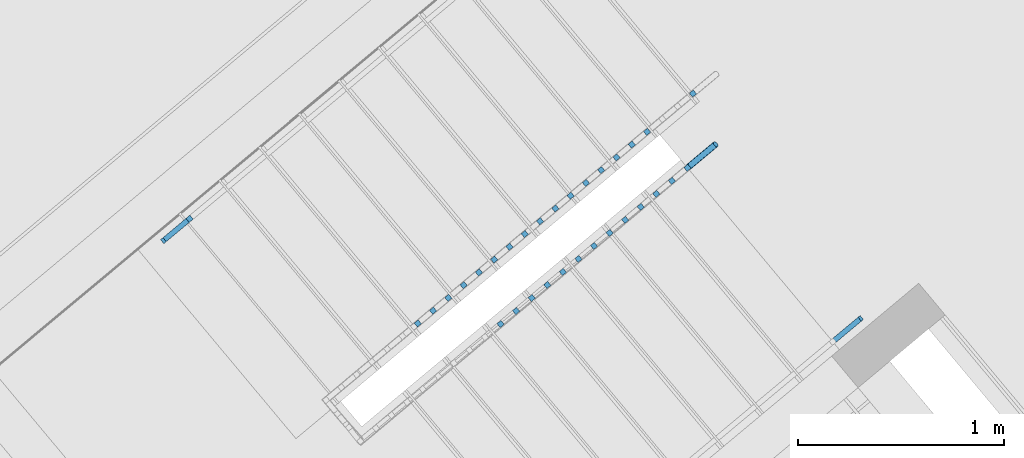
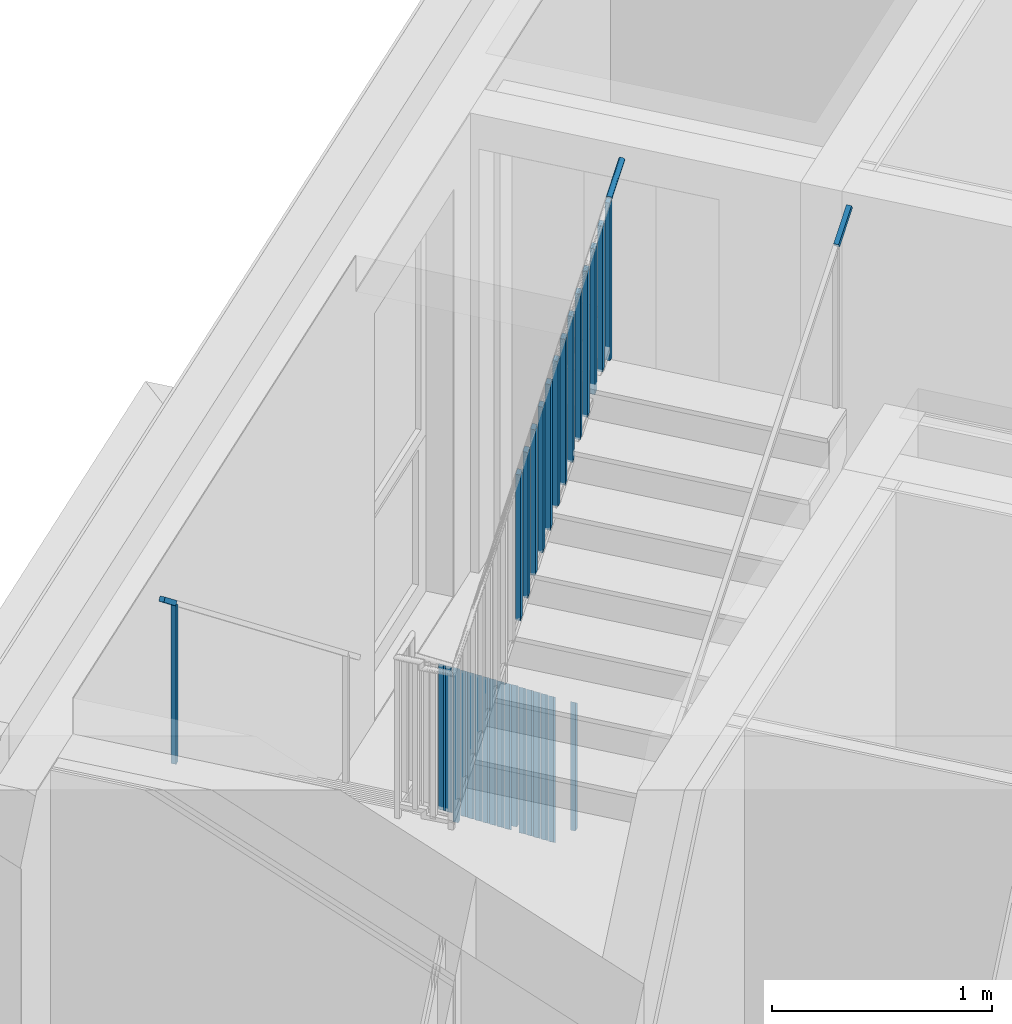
# One storey, part 41 of 50: 34 building element parts, 3 elements without a shape of their own.
"""IFC4 building model written with IfcOpenShell, lengths in metres."""

from ifc_helpers import new_model, entity, si_unit, converted_unit, derived_unit, direction, frame, origin_with_axes, place, context, subcontext, project, spatial, polygons, material, type_object, element, aggregate, save


model = new_model("IFC4")

# Units and contexts
model_context = context("Model", 3, precision=1e-05, world=origin_with_axes(), true_north=direction((0.0, 1.0)))
body_context = subcontext(model_context, "Body", "Model", "MODEL_VIEW")
ifc_project = project(units=[si_unit("LENGTHUNIT", "METRE"), si_unit("AREAUNIT", "SQUARE_METRE"), si_unit("VOLUMEUNIT", "CUBIC_METRE"), converted_unit("PLANEANGLEUNIT", "DEGREE", entity("IfcPlaneAngleMeasure", 0.0174532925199), si_unit("PLANEANGLEUNIT", "RADIAN"), dimensions=[0, 0, 0, 0, 0, 0, 0]), converted_unit("TIMEUNIT", "Year", entity("IfcTimeMeasure", 31556926.0), si_unit("TIMEUNIT", "SECOND"), dimensions=[0, 0, 1, 0, 0, 0, 0]), si_unit("MASSUNIT", "GRAM", prefix="KILO"), si_unit("THERMODYNAMICTEMPERATUREUNIT", "DEGREE_CELSIUS"), si_unit("LUMINOUSINTENSITYUNIT", "LUMEN"), si_unit("ENERGYUNIT", "JOULE", prefix="MEGA"), derived_unit("THERMALCONDUCTANCEUNIT", [(si_unit("POWERUNIT", "WATT"), 1), (si_unit("LENGTHUNIT", "METRE"), -1), (si_unit("THERMODYNAMICTEMPERATUREUNIT", "KELVIN"), -1)]), derived_unit("SPECIFICHEATCAPACITYUNIT", [(si_unit("ENERGYUNIT", "JOULE"), 1), (si_unit("MASSUNIT", "GRAM", prefix="KILO"), -1), (si_unit("THERMODYNAMICTEMPERATUREUNIT", "KELVIN"), -1)]), derived_unit("MASSDENSITYUNIT", [(si_unit("MASSUNIT", "GRAM", prefix="KILO"), 1), (si_unit("VOLUMEUNIT", "CUBIC_METRE"), -1)])], contexts=[model_context])

# Site, building, storey
site_placement = place(None, frame((-0.00153261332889, -0.00661245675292, 0.0), z_axis=(0.0, 0.0, 1.0), x_axis=(1.0, 0.0, 0.0)))
site = spatial("IfcSite", under=ifc_project, at=site_placement, Name="Site", CompositionType="ELEMENT")
building_placement = place(site_placement, origin_with_axes())
building = spatial("IfcBuilding", under=site, at=building_placement, Name="Building", CompositionType="ELEMENT")
storey_placement = place(building_placement, frame((0.0, 0.0, 2.74), z_axis=(0.0, 0.0, 1.0), x_axis=(1.0, 0.0, 0.0)))
storey = spatial("IfcBuildingStorey", under=building, at=storey_placement, Name="OG1", CompositionType="ELEMENT", Elevation=2.74)

# Railing, building element parts
railing_type = type_object("IfcRailingType", Name="Geländerart", PredefinedType="NOTDEFINED")
railing_1_placement = place(storey_placement, frame((-0.398547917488, 23.8355657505, 0.05), z_axis=(0.0, 0.0, 1.0), x_axis=(1.0, 0.0, 0.0)))
railing_1 = element("IfcRailing", 1, at=railing_1_placement, inside=storey, type_object=railing_type, Name="Geländer - 001", PredefinedType="NOTDEFINED")
ifc_material = material(Name="BEKLEIDUNG")
building_element_part_1_placement = place(railing_1_placement, origin_with_axes())
building_element_part_1 = element("IfcBuildingElementPart", 2, at=building_element_part_1_placement, material=ifc_material, Name="BEKLEIDUNG", PredefinedType="NOTDEFINED", context=body_context, shape_type="Tessellation", body=[
    polygons([(-0.0496656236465, 0.0399477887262, 0.177058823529), (-0.0336363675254, 0.0207628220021, 0.177058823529), (-0.0336363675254, 0.0207628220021, 0.889746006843), (-0.0496656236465, 0.0399477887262, 0.889746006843), (-0.0304806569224, 0.0559770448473, 0.177058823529), (-0.0144514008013, 0.0367920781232, 0.177058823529), (-0.0144514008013, 0.0367920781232, 0.870253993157), (-0.0304806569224, 0.0559770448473, 0.870253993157)], [[[1, 2, 3, 4]], [[1, 5, 6, 2]], [[2, 6, 7, 3]], [[4, 3, 7, 8]], [[5, 1, 4, 8]], [[6, 5, 8, 7]]], closed=True),
])
building_element_part_2_placement = place(railing_1_placement, origin_with_axes())
building_element_part_2 = element("IfcBuildingElementPart", 3, at=building_element_part_2_placement, material=ifc_material, Name="BEKLEIDUNG", PredefinedType="NOTDEFINED", context=body_context, shape_type="Tessellation", body=[
    polygons([(-0.0409350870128, -0.323945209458, 3.01), (-0.0569653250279, -0.30476106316, 3.01), (-0.0569653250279, -0.30476106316, 3.89767233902), (-0.0409350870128, -0.323945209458, 3.89767233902), (-0.0601192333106, -0.339975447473, 3.01), (-0.0761494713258, -0.320791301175, 3.01), (-0.0761494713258, -0.320791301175, 3.88232766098), (-0.0601192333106, -0.339975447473, 3.88232766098)], [[[1, 2, 3, 4]], [[1, 5, 6, 2]], [[2, 6, 7, 3]], [[4, 3, 7, 8]], [[5, 1, 4, 8]], [[6, 5, 8, 7]]], closed=True),
])
building_element_part_3_placement = place(railing_1_placement, origin_with_axes())
building_element_part_3 = element("IfcBuildingElementPart", 4, at=building_element_part_3_placement, material=ifc_material, Name="BEKLEIDUNG", PredefinedType="NOTDEFINED", context=body_context, shape_type="Tessellation", body=[
    polygons([(-0.0621391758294, -0.305826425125, 3.89721601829), (-0.0630386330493, -0.30687497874, 3.89943593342), (0.0677612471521, -0.197578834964, 4.00405784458), (0.068660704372, -0.196530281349, 4.00183792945), (-0.0609474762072, -0.305127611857, 3.89499610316), (-0.0594997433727, -0.304799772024, 3.89284363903), (-0.0578399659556, -0.304852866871, 3.89082402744), (-0.0560185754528, -0.305285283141, 3.88899863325), (-0.054090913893, -0.306083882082, 3.88742292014), (-0.0521155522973, -0.30722439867, 3.88614476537), (-0.0501525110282, -0.308672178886, 3.88520300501), (-0.0482614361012, -0.310383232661, 3.88462625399), (-0.0464997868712, -0.312305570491, 3.88443203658), (-0.0449210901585, -0.314380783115, 3.88462625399), (-0.043573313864, -0.316545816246, 3.88520300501), (-0.0424974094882, -0.318734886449, 3.88614476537), (-0.0417260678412, -0.320881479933, 3.88742292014), (-0.0412827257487, -0.322920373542, 3.88899863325), (-0.0411808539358, -0.324789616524, 3.89082402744), (-0.041423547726, -0.326432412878, 3.89284363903), (-0.0420034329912, -0.327798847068, 3.89499610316), (-0.0429028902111, -0.328847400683, 3.89721601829), (-0.0440945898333, -0.329546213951, 3.89943593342), (-0.0455423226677, -0.329874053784, 3.90158839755), (-0.0472021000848, -0.329820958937, 3.90360800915), (-0.0490234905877, -0.329388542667, 3.90543340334), (-0.0509511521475, -0.328589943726, 3.90700911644), (-0.0529265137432, -0.327449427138, 3.90828727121), (-0.0548895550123, -0.326001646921, 3.90922903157), (-0.0567806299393, -0.324290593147, 3.90980578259), (-0.0585422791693, -0.322368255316, 3.91), (-0.0601209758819, -0.320293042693, 3.90980578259), (-0.0614687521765, -0.318128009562, 3.90922903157), (-0.0625446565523, -0.315938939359, 3.90828727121), (-0.0633159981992, -0.313792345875, 3.90700911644), (-0.0637593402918, -0.311753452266, 3.90543340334), (-0.0638612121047, -0.309884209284, 3.90360800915), (-0.0636185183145, -0.30824141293, 3.90158839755), (0.0671813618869, -0.198945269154, 4.00621030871), (0.0669386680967, -0.200588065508, 4.00822992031), (0.0670405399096, -0.20245730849, 4.0100553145), (0.0674838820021, -0.204496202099, 4.0116310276), (0.0682552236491, -0.206642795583, 4.01290918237), (0.0693311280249, -0.208831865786, 4.01385094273), (0.0706789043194, -0.210996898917, 4.01442769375), (0.0722576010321, -0.213072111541, 4.01462191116), (0.0740192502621, -0.214994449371, 4.01442769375), (0.0759103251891, -0.216705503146, 4.01385094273), (0.0778733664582, -0.218153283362, 4.01290918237), (0.0798487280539, -0.21929379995, 4.0116310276), (0.0817763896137, -0.220092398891, 4.0100553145), (0.0835977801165, -0.220524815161, 4.00822992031), (0.0852575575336, -0.220577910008, 4.00621030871), (0.0867052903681, -0.220250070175, 4.00405784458), (0.0878969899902, -0.219551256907, 4.00183792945), (0.0887964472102, -0.218502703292, 3.99961801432), (0.0893763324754, -0.217136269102, 3.9974655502), (0.0896190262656, -0.215493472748, 3.9954459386), (0.0895171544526, -0.213624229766, 3.99362054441), (0.0890738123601, -0.211585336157, 3.9920448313), (0.0883024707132, -0.209438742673, 3.99076667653), (0.0872265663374, -0.20724967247, 3.98982491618), (0.0858787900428, -0.205084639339, 3.98924816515), (0.0843000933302, -0.203009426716, 3.98905394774), (0.0825384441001, -0.201087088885, 3.98924816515), (0.0806473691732, -0.199376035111, 3.98982491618), (0.0786843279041, -0.197928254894, 3.99076667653), (0.0767089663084, -0.196787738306, 3.9920448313), (0.0747813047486, -0.195989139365, 3.99362054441), (0.0729599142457, -0.195556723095, 3.9954459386), (0.0713001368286, -0.195503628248, 3.9974655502), (0.0698524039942, -0.195831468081, 3.99961801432)], [[[1, 2, 3, 4]], [[1, 5, 6, 7, 8, 9, 10, 11, 12, 13, 14, 15, 16, 17, 18, 19, 20, 21, 22, 23, 24, 25, 26, 27, 28, 29, 30, 31, 32, 33, 34, 35, 36, 37, 38, 2]], [[2, 38, 39, 3]], [[4, 3, 39, 40, 41, 42, 43, 44, 45, 46, 47, 48, 49, 50, 51, 52, 53, 54, 55, 56, 57, 58, 59, 60, 61, 62, 63, 64, 65, 66, 67, 68, 69, 70, 71, 72]], [[5, 1, 4, 72]], [[6, 5, 72, 71]], [[7, 6, 71, 70]], [[8, 7, 70, 69]], [[9, 8, 69, 68]], [[10, 9, 68, 67]], [[11, 10, 67, 66]], [[12, 11, 66, 65]], [[13, 12, 65, 64]], [[14, 13, 64, 63]], [[15, 14, 63, 62]], [[16, 15, 62, 61]], [[17, 16, 61, 60]], [[18, 17, 60, 59]], [[19, 18, 59, 58]], [[20, 19, 58, 57]], [[21, 20, 57, 56]], [[22, 21, 56, 55]], [[23, 22, 55, 54]], [[24, 23, 54, 53]], [[25, 24, 53, 52]], [[26, 25, 52, 51]], [[27, 26, 51, 50]], [[28, 27, 50, 49]], [[29, 28, 49, 48]], [[30, 29, 48, 47]], [[31, 30, 47, 46]], [[32, 31, 46, 45]], [[33, 32, 45, 44]], [[34, 33, 44, 43]], [[35, 34, 43, 42]], [[36, 35, 42, 41]], [[37, 36, 41, 40]], [[38, 37, 40, 39]]], closed=True),
])
building_element_part_4_placement = place(railing_1_placement, origin_with_axes())
building_element_part_4 = element("IfcBuildingElementPart", 5, at=building_element_part_4_placement, material=ifc_material, Name="BEKLEIDUNG", PredefinedType="NOTDEFINED", context=body_context, shape_type="Tessellation", body=[
    polygons([(-0.272299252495, -0.146065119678, 0.30594278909), (-0.256269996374, -0.165250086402, 0.30594278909), (-0.256269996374, -0.165250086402, 1.11344278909), (-0.272299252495, -0.146065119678, 1.11344278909), (-0.253114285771, -0.130035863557, 0.286450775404), (-0.23708502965, -0.149220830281, 0.286450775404), (-0.23708502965, -0.149220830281, 1.0939507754), (-0.253114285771, -0.130035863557, 1.0939507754)], [[[1, 2, 3, 4]], [[1, 5, 6, 2]], [[2, 6, 7, 3]], [[4, 3, 7, 8]], [[5, 1, 4, 8]], [[6, 5, 8, 7]]], closed=True),
])
building_element_part_5_placement = place(railing_1_placement, origin_with_axes())
building_element_part_5 = element("IfcBuildingElementPart", 6, at=building_element_part_5_placement, material=ifc_material, Name="BEKLEIDUNG", PredefinedType="NOTDEFINED", context=body_context, shape_type="Tessellation", body=[
    polygons([(-0.346510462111, -0.20806942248, 0.381341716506), (-0.33048120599, -0.227254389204, 0.381341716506), (-0.33048120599, -0.227254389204, 1.18884171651), (-0.346510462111, -0.20806942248, 1.18884171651), (-0.327325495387, -0.192040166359, 0.36184970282), (-0.311296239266, -0.211225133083, 0.36184970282), (-0.311296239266, -0.211225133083, 1.16934970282), (-0.327325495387, -0.192040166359, 1.16934970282)], [[[1, 2, 3, 4]], [[1, 5, 6, 2]], [[2, 6, 7, 3]], [[4, 3, 7, 8]], [[5, 1, 4, 8]], [[6, 5, 8, 7]]], closed=True),
])
building_element_part_6_placement = place(railing_1_placement, origin_with_axes())
building_element_part_6 = element("IfcBuildingElementPart", 7, at=building_element_part_6_placement, material=ifc_material, Name="BEKLEIDUNG", PredefinedType="NOTDEFINED", context=body_context, shape_type="Tessellation", body=[
    polygons([(-0.420721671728, -0.270073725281, 0.456740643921), (-0.404692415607, -0.289258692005, 0.456740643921), (-0.404692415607, -0.289258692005, 1.26424064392), (-0.420721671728, -0.270073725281, 1.26424064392), (-0.401536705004, -0.25404446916, 0.437248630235), (-0.385507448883, -0.273229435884, 0.437248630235), (-0.385507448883, -0.273229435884, 1.24474863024), (-0.401536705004, -0.25404446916, 1.24474863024)], [[[1, 2, 3, 4]], [[1, 5, 6, 2]], [[2, 6, 7, 3]], [[4, 3, 7, 8]], [[5, 1, 4, 8]], [[6, 5, 8, 7]]], closed=True),
])
building_element_part_7_placement = place(railing_1_placement, origin_with_axes())
building_element_part_7 = element("IfcBuildingElementPart", 8, at=building_element_part_7_placement, material=ifc_material, Name="BEKLEIDUNG", PredefinedType="NOTDEFINED", context=body_context, shape_type="Tessellation", body=[
    polygons([(-0.494932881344, -0.332078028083, 0.532139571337), (-0.478903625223, -0.351262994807, 0.532139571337), (-0.478903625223, -0.351262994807, 1.33963957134), (-0.494932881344, -0.332078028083, 1.33963957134), (-0.47574791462, -0.316048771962, 0.512647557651), (-0.459718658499, -0.335233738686, 0.512647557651), (-0.459718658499, -0.335233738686, 1.32014755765), (-0.47574791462, -0.316048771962, 1.32014755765)], [[[1, 2, 3, 4]], [[1, 5, 6, 2]], [[2, 6, 7, 3]], [[4, 3, 7, 8]], [[5, 1, 4, 8]], [[6, 5, 8, 7]]], closed=True),
])
building_element_part_8_placement = place(railing_1_placement, origin_with_axes())
building_element_part_8 = element("IfcBuildingElementPart", 9, at=building_element_part_8_placement, material=ifc_material, Name="BEKLEIDUNG", PredefinedType="NOTDEFINED", context=body_context, shape_type="Tessellation", body=[
    polygons([(-0.56914409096, -0.394082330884, 0.607538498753), (-0.553114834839, -0.413267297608, 0.607538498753), (-0.553114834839, -0.413267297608, 1.41503849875), (-0.56914409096, -0.394082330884, 1.41503849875), (-0.549959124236, -0.378053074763, 0.588046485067), (-0.533929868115, -0.397238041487, 0.588046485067), (-0.533929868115, -0.397238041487, 1.39554648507), (-0.549959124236, -0.378053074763, 1.39554648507)], [[[1, 2, 3, 4]], [[1, 5, 6, 2]], [[2, 6, 7, 3]], [[4, 3, 7, 8]], [[5, 1, 4, 8]], [[6, 5, 8, 7]]], closed=True),
])
building_element_part_9_placement = place(railing_1_placement, origin_with_axes())
building_element_part_9 = element("IfcBuildingElementPart", 10, at=building_element_part_9_placement, material=ifc_material, Name="BEKLEIDUNG", PredefinedType="NOTDEFINED", context=body_context, shape_type="Tessellation", body=[
    polygons([(-0.643355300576, -0.456086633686, 0.708235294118), (-0.627326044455, -0.47527160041, 0.708235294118), (-0.627326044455, -0.47527160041, 1.49293742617), (-0.643355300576, -0.456086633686, 1.49293742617), (-0.624170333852, -0.440057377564, 0.708235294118), (-0.608141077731, -0.459242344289, 0.708235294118), (-0.608141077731, -0.459242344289, 1.47344541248), (-0.624170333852, -0.440057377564, 1.47344541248)], [[[1, 2, 3, 4]], [[1, 5, 6, 2]], [[2, 6, 7, 3]], [[4, 3, 7, 8]], [[5, 1, 4, 8]], [[6, 5, 8, 7]]], closed=True),
])
building_element_part_10_placement = place(railing_1_placement, origin_with_axes())
building_element_part_10 = element("IfcBuildingElementPart", 11, at=building_element_part_10_placement, material=ifc_material, Name="BEKLEIDUNG", PredefinedType="NOTDEFINED", context=body_context, shape_type="Tessellation", body=[
    polygons([(-0.717566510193, -0.518090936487, 0.758336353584), (-0.701537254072, -0.537275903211, 0.758336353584), (-0.701537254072, -0.537275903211, 1.56583635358), (-0.717566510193, -0.518090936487, 1.56583635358), (-0.698381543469, -0.502061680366, 0.738844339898), (-0.682352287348, -0.52124664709, 0.738844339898), (-0.682352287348, -0.52124664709, 1.5463443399), (-0.698381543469, -0.502061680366, 1.5463443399)], [[[1, 2, 3, 4]], [[1, 5, 6, 2]], [[2, 6, 7, 3]], [[4, 3, 7, 8]], [[5, 1, 4, 8]], [[6, 5, 8, 7]]], closed=True),
])
building_element_part_11_placement = place(railing_1_placement, origin_with_axes())
building_element_part_11 = element("IfcBuildingElementPart", 12, at=building_element_part_11_placement, material=ifc_material, Name="BEKLEIDUNG", PredefinedType="NOTDEFINED", context=body_context, shape_type="Tessellation", body=[
    polygons([(-0.791777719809, -0.580095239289, 0.833735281), (-0.775748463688, -0.599280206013, 0.833735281), (-0.775748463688, -0.599280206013, 1.641235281), (-0.791777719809, -0.580095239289, 1.641235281), (-0.772592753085, -0.564065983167, 0.814243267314), (-0.756563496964, -0.583250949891, 0.814243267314), (-0.756563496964, -0.583250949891, 1.62174326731), (-0.772592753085, -0.564065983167, 1.62174326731)], [[[1, 2, 3, 4]], [[1, 5, 6, 2]], [[2, 6, 7, 3]], [[4, 3, 7, 8]], [[5, 1, 4, 8]], [[6, 5, 8, 7]]], closed=True),
])
building_element_part_12_placement = place(railing_1_placement, origin_with_axes())
building_element_part_12 = element("IfcBuildingElementPart", 13, at=building_element_part_12_placement, material=ifc_material, Name="BEKLEIDUNG", PredefinedType="NOTDEFINED", context=body_context, shape_type="Tessellation", body=[
    polygons([(-0.865988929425, -0.64209954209, 0.909134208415), (-0.849959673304, -0.661284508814, 0.909134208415), (-0.849959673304, -0.661284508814, 1.71663420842), (-0.865988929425, -0.64209954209, 1.71663420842), (-0.846803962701, -0.626070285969, 0.889642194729), (-0.83077470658, -0.645255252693, 0.889642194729), (-0.83077470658, -0.645255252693, 1.69714219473), (-0.846803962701, -0.626070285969, 1.69714219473)], [[[1, 2, 3, 4]], [[1, 5, 6, 2]], [[2, 6, 7, 3]], [[4, 3, 7, 8]], [[5, 1, 4, 8]], [[6, 5, 8, 7]]], closed=True),
])
building_element_part_13_placement = place(railing_1_placement, origin_with_axes())
building_element_part_13 = element("IfcBuildingElementPart", 14, at=building_element_part_13_placement, material=ifc_material, Name="BEKLEIDUNG", PredefinedType="NOTDEFINED", context=body_context, shape_type="Tessellation", body=[
    polygons([(-0.940200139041, -0.704103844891, 0.984533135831), (-0.92417088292, -0.723288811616, 0.984533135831), (-0.92417088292, -0.723288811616, 1.79203313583), (-0.940200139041, -0.704103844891, 1.79203313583), (-0.921015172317, -0.68807458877, 0.965041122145), (-0.904985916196, -0.707259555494, 0.965041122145), (-0.904985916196, -0.707259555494, 1.77254112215), (-0.921015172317, -0.68807458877, 1.77254112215)], [[[1, 2, 3, 4]], [[1, 5, 6, 2]], [[2, 6, 7, 3]], [[4, 3, 7, 8]], [[5, 1, 4, 8]], [[6, 5, 8, 7]]], closed=True),
])
building_element_part_14_placement = place(railing_1_placement, origin_with_axes())
building_element_part_14 = element("IfcBuildingElementPart", 15, at=building_element_part_14_placement, material=ifc_material, Name="BEKLEIDUNG", PredefinedType="NOTDEFINED", context=body_context, shape_type="Tessellation", body=[
    polygons([(-1.01441134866, -0.766108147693, 1.05993206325), (-0.998382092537, -0.785293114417, 1.05993206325), (-0.998382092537, -0.785293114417, 1.86743206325), (-1.01441134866, -0.766108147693, 1.86743206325), (-0.995226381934, -0.750078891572, 1.04044004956), (-0.979197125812, -0.769263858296, 1.04044004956), (-0.979197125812, -0.769263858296, 1.84794004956), (-0.995226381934, -0.750078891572, 1.84794004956)], [[[1, 2, 3, 4]], [[1, 5, 6, 2]], [[2, 6, 7, 3]], [[4, 3, 7, 8]], [[5, 1, 4, 8]], [[6, 5, 8, 7]]], closed=True),
])
building_element_part_15_placement = place(railing_1_placement, origin_with_axes())
building_element_part_15 = element("IfcBuildingElementPart", 16, at=building_element_part_15_placement, material=ifc_material, Name="BEKLEIDUNG", PredefinedType="NOTDEFINED", context=body_context, shape_type="Tessellation", body=[
    polygons([(-1.08862255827, -0.828112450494, 1.13533099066), (-1.07259330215, -0.847297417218, 1.13533099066), (-1.07259330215, -0.847297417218, 1.94283099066), (-1.08862255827, -0.828112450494, 1.94283099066), (-1.06943759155, -0.812083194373, 1.11583897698), (-1.05340833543, -0.831268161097, 1.11583897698), (-1.05340833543, -0.831268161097, 1.92333897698), (-1.06943759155, -0.812083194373, 1.92333897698)], [[[1, 2, 3, 4]], [[1, 5, 6, 2]], [[2, 6, 7, 3]], [[4, 3, 7, 8]], [[5, 1, 4, 8]], [[6, 5, 8, 7]]], closed=True),
])
building_element_part_16_placement = place(railing_1_placement, origin_with_axes())
building_element_part_16 = element("IfcBuildingElementPart", 17, at=building_element_part_16_placement, material=ifc_material, Name="BEKLEIDUNG", PredefinedType="NOTDEFINED", context=body_context, shape_type="Tessellation", body=[
    polygons([(-1.16283376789, -0.890116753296, 1.21072991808), (-1.14680451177, -0.90930172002, 1.21072991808), (-1.14680451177, -0.90930172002, 2.01822991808), (-1.16283376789, -0.890116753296, 2.01822991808), (-1.14364880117, -0.874087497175, 1.19123790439), (-1.12761954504, -0.893272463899, 1.19123790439), (-1.12761954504, -0.893272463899, 1.99873790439), (-1.14364880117, -0.874087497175, 1.99873790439)], [[[1, 2, 3, 4]], [[1, 5, 6, 2]], [[2, 6, 7, 3]], [[4, 3, 7, 8]], [[5, 1, 4, 8]], [[6, 5, 8, 7]]], closed=True),
])
building_element_part_17_placement = place(railing_1_placement, origin_with_axes())
building_element_part_17 = element("IfcBuildingElementPart", 18, at=building_element_part_17_placement, material=ifc_material, Name="BEKLEIDUNG", PredefinedType="NOTDEFINED", context=body_context, shape_type="Tessellation", body=[
    polygons([(-1.23704497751, -0.952121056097, 1.23941176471), (-1.22101572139, -0.971306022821, 1.23941176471), (-1.22101572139, -0.971306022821, 2.09612884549), (-1.23704497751, -0.952121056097, 2.09612884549), (-1.21786001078, -0.936091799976, 1.23941176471), (-1.20183075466, -0.9552767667, 1.23941176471), (-1.20183075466, -0.9552767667, 2.07663683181), (-1.21786001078, -0.936091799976, 2.07663683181)], [[[1, 2, 3, 4]], [[1, 5, 6, 2]], [[2, 6, 7, 3]], [[4, 3, 7, 8]], [[5, 1, 4, 8]], [[6, 5, 8, 7]]], closed=True),
])
building_element_part_18_placement = place(railing_1_placement, origin_with_axes())
building_element_part_18 = element("IfcBuildingElementPart", 19, at=building_element_part_18_placement, material=ifc_material, Name="BEKLEIDUNG", PredefinedType="NOTDEFINED", context=body_context, shape_type="Tessellation", body=[
    polygons([(-1.31125618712, -1.0141253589, 1.36152777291), (-1.295226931, -1.03331032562, 1.36152777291), (-1.295226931, -1.03331032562, 2.16902777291), (-1.31125618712, -1.0141253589, 2.16902777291), (-1.2920712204, -0.998096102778, 1.34203575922), (-1.27604196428, -1.0172810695, 1.34203575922), (-1.27604196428, -1.0172810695, 2.14953575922), (-1.2920712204, -0.998096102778, 2.14953575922)], [[[1, 2, 3, 4]], [[1, 5, 6, 2]], [[2, 6, 7, 3]], [[4, 3, 7, 8]], [[5, 1, 4, 8]], [[6, 5, 8, 7]]], closed=True),
])
building_element_part_19_placement = place(railing_1_placement, origin_with_axes())
building_element_part_19 = element("IfcBuildingElementPart", 20, at=building_element_part_19_placement, material=ifc_material, Name="BEKLEIDUNG", PredefinedType="NOTDEFINED", context=body_context, shape_type="Tessellation", body=[
    polygons([(-1.38546739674, -1.0761296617, 1.43692670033), (-1.36943814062, -1.09531462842, 1.43692670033), (-1.36943814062, -1.09531462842, 2.24442670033), (-1.38546739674, -1.0761296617, 2.24442670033), (-1.36628243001, -1.06010040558, 1.41743468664), (-1.35025317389, -1.0792853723, 1.41743468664), (-1.35025317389, -1.0792853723, 2.22493468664), (-1.36628243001, -1.06010040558, 2.22493468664)], [[[1, 2, 3, 4]], [[1, 5, 6, 2]], [[2, 6, 7, 3]], [[4, 3, 7, 8]], [[5, 1, 4, 8]], [[6, 5, 8, 7]]], closed=True),
])
building_element_part_20_placement = place(railing_1_placement, origin_with_axes())
building_element_part_20 = element("IfcBuildingElementPart", 21, at=building_element_part_20_placement, material=ifc_material, Name="BEKLEIDUNG", PredefinedType="NOTDEFINED", context=body_context, shape_type="Tessellation", body=[
    polygons([(-0.948306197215, -1.08214287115, 2.36190027), (-0.96433643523, -1.06295872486, 2.36190027), (-0.96433643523, -1.06295872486, 3.16940027), (-0.948306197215, -1.08214287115, 3.16940027), (-0.967490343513, -1.09817310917, 2.34655559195), (-0.983520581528, -1.07898896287, 2.34655559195), (-0.983520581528, -1.07898896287, 3.15405559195), (-0.967490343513, -1.09817310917, 3.15405559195)], [[[1, 2, 3, 4]], [[1, 5, 6, 2]], [[2, 6, 7, 3]], [[4, 3, 7, 8]], [[5, 1, 4, 8]], [[6, 5, 8, 7]]], closed=True),
])
building_element_part_21_placement = place(railing_1_placement, origin_with_axes())
building_element_part_21 = element("IfcBuildingElementPart", 22, at=building_element_part_21_placement, material=ifc_material, Name="BEKLEIDUNG", PredefinedType="NOTDEFINED", context=body_context, shape_type="Tessellation", body=[
    polygons([(-0.872691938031, -1.01895973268, 2.42238127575), (-0.888722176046, -0.999775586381, 2.42238127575), (-0.888722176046, -0.999775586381, 3.22988127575), (-0.872691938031, -1.01895973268, 3.22988127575), (-0.891876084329, -1.03498997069, 2.40703659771), (-0.907906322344, -1.0158058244, 2.40703659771), (-0.907906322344, -1.0158058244, 3.21453659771), (-0.891876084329, -1.03498997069, 3.21453659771)], [[[1, 2, 3, 4]], [[1, 5, 6, 2]], [[2, 6, 7, 3]], [[4, 3, 7, 8]], [[5, 1, 4, 8]], [[6, 5, 8, 7]]], closed=True),
])
building_element_part_22_placement = place(railing_1_placement, origin_with_axes())
building_element_part_22 = element("IfcBuildingElementPart", 23, at=building_element_part_22_placement, material=ifc_material, Name="BEKLEIDUNG", PredefinedType="NOTDEFINED", context=body_context, shape_type="Tessellation", body=[
    polygons([(-0.797077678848, -0.955776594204, 2.4828622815), (-0.813107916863, -0.936592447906, 2.4828622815), (-0.813107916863, -0.936592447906, 3.2903622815), (-0.797077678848, -0.955776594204, 3.2903622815), (-0.816261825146, -0.971806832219, 2.46751760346), (-0.832292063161, -0.952622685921, 2.46751760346), (-0.832292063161, -0.952622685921, 3.27501760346), (-0.816261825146, -0.971806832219, 3.27501760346)], [[[1, 2, 3, 4]], [[1, 5, 6, 2]], [[2, 6, 7, 3]], [[4, 3, 7, 8]], [[5, 1, 4, 8]], [[6, 5, 8, 7]]], closed=True),
])
building_element_part_23_placement = place(railing_1_placement, origin_with_axes())
building_element_part_23 = element("IfcBuildingElementPart", 24, at=building_element_part_23_placement, material=ifc_material, Name="BEKLEIDUNG", PredefinedType="NOTDEFINED", context=body_context, shape_type="Tessellation", body=[
    polygons([(-0.721463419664, -0.892593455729, 2.54334328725), (-0.737493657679, -0.873409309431, 2.54334328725), (-0.737493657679, -0.873409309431, 3.35084328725), (-0.721463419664, -0.892593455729, 3.35084328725), (-0.740647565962, -0.908623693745, 2.52799860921), (-0.756677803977, -0.889439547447, 2.52799860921), (-0.756677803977, -0.889439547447, 3.33549860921), (-0.740647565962, -0.908623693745, 3.33549860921)], [[[1, 2, 3, 4]], [[1, 5, 6, 2]], [[2, 6, 7, 3]], [[4, 3, 7, 8]], [[5, 1, 4, 8]], [[6, 5, 8, 7]]], closed=True),
])
building_element_part_24_placement = place(railing_1_placement, origin_with_axes())
building_element_part_24 = element("IfcBuildingElementPart", 25, at=building_element_part_24_placement, material=ifc_material, Name="BEKLEIDUNG", PredefinedType="NOTDEFINED", context=body_context, shape_type="Tessellation", body=[
    polygons([(-0.645849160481, -0.829410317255, 2.60382429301), (-0.661879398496, -0.810226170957, 2.60382429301), (-0.661879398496, -0.810226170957, 3.41132429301), (-0.645849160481, -0.829410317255, 3.41132429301), (-0.665033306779, -0.84544055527, 2.58847961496), (-0.681063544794, -0.826256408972, 2.58847961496), (-0.681063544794, -0.826256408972, 3.39597961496), (-0.665033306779, -0.84544055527, 3.39597961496)], [[[1, 2, 3, 4]], [[1, 5, 6, 2]], [[2, 6, 7, 3]], [[4, 3, 7, 8]], [[5, 1, 4, 8]], [[6, 5, 8, 7]]], closed=True),
])
building_element_part_25_placement = place(railing_1_placement, origin_with_axes())
building_element_part_25 = element("IfcBuildingElementPart", 26, at=building_element_part_25_placement, material=ifc_material, Name="BEKLEIDUNG", PredefinedType="NOTDEFINED", context=body_context, shape_type="Tessellation", body=[
    polygons([(-0.570234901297, -0.76622717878, 2.65588235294), (-0.586265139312, -0.747043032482, 2.65588235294), (-0.586265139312, -0.747043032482, 3.47430529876), (-0.570234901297, -0.76622717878, 3.47430529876), (-0.589419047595, -0.782257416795, 2.65588235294), (-0.60544928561, -0.763073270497, 2.65588235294), (-0.60544928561, -0.763073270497, 3.45896062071), (-0.589419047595, -0.782257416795, 3.45896062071)], [[[1, 2, 3, 4]], [[1, 5, 6, 2]], [[2, 6, 7, 3]], [[4, 3, 7, 8]], [[5, 1, 4, 8]], [[6, 5, 8, 7]]], closed=True),
])
building_element_part_26_placement = place(railing_1_placement, origin_with_axes())
building_element_part_26 = element("IfcBuildingElementPart", 27, at=building_element_part_26_placement, material=ifc_material, Name="BEKLEIDUNG", PredefinedType="NOTDEFINED", context=body_context, shape_type="Tessellation", body=[
    polygons([(-0.494620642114, -0.703044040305, 2.72478630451), (-0.510650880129, -0.683859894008, 2.72478630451), (-0.510650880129, -0.683859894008, 3.53228630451), (-0.494620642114, -0.703044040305, 3.53228630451), (-0.513804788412, -0.719074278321, 2.70944162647), (-0.529835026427, -0.699890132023, 2.70944162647), (-0.529835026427, -0.699890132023, 3.51694162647), (-0.513804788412, -0.719074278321, 3.51694162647)], [[[1, 2, 3, 4]], [[1, 5, 6, 2]], [[2, 6, 7, 3]], [[4, 3, 7, 8]], [[5, 1, 4, 8]], [[6, 5, 8, 7]]], closed=True),
])
building_element_part_27_placement = place(railing_1_placement, origin_with_axes())
building_element_part_27 = element("IfcBuildingElementPart", 28, at=building_element_part_27_placement, material=ifc_material, Name="BEKLEIDUNG", PredefinedType="NOTDEFINED", context=body_context, shape_type="Tessellation", body=[
    polygons([(-0.41900638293, -0.639860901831, 2.78526731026), (-0.435036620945, -0.620676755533, 2.78526731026), (-0.435036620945, -0.620676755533, 3.59276731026), (-0.41900638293, -0.639860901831, 3.59276731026), (-0.438190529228, -0.655891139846, 2.76992263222), (-0.454220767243, -0.636706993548, 2.76992263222), (-0.454220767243, -0.636706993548, 3.57742263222), (-0.438190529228, -0.655891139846, 3.57742263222)], [[[1, 2, 3, 4]], [[1, 5, 6, 2]], [[2, 6, 7, 3]], [[4, 3, 7, 8]], [[5, 1, 4, 8]], [[6, 5, 8, 7]]], closed=True),
])
building_element_part_28_placement = place(railing_1_placement, origin_with_axes())
building_element_part_28 = element("IfcBuildingElementPart", 29, at=building_element_part_28_placement, material=ifc_material, Name="BEKLEIDUNG", PredefinedType="NOTDEFINED", context=body_context, shape_type="Tessellation", body=[
    polygons([(-0.343392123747, -0.576677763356, 2.84574831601), (-0.359422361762, -0.557493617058, 2.84574831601), (-0.359422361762, -0.557493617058, 3.65324831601), (-0.343392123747, -0.576677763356, 3.65324831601), (-0.362576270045, -0.592708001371, 2.83040363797), (-0.37860650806, -0.573523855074, 2.83040363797), (-0.37860650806, -0.573523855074, 3.63790363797), (-0.362576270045, -0.592708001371, 3.63790363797)], [[[1, 2, 3, 4]], [[1, 5, 6, 2]], [[2, 6, 7, 3]], [[4, 3, 7, 8]], [[5, 1, 4, 8]], [[6, 5, 8, 7]]], closed=True),
])
building_element_part_29_placement = place(railing_1_placement, origin_with_axes())
building_element_part_29 = element("IfcBuildingElementPart", 30, at=building_element_part_29_placement, material=ifc_material, Name="BEKLEIDUNG", PredefinedType="NOTDEFINED", context=body_context, shape_type="Tessellation", body=[
    polygons([(-0.267777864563, -0.513494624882, 2.90622932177), (-0.283808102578, -0.494310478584, 2.90622932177), (-0.283808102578, -0.494310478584, 3.71372932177), (-0.267777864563, -0.513494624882, 3.71372932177), (-0.286962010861, -0.529524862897, 2.89088464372), (-0.302992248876, -0.510340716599, 2.89088464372), (-0.302992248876, -0.510340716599, 3.69838464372), (-0.286962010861, -0.529524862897, 3.69838464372)], [[[1, 2, 3, 4]], [[1, 5, 6, 2]], [[2, 6, 7, 3]], [[4, 3, 7, 8]], [[5, 1, 4, 8]], [[6, 5, 8, 7]]], closed=True),
])
building_element_part_30_placement = place(railing_1_placement, origin_with_axes())
building_element_part_30 = element("IfcBuildingElementPart", 31, at=building_element_part_30_placement, material=ifc_material, Name="BEKLEIDUNG", PredefinedType="NOTDEFINED", context=body_context, shape_type="Tessellation", body=[
    polygons([(-0.19216360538, -0.450311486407, 2.96671032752), (-0.208193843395, -0.431127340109, 2.96671032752), (-0.208193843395, -0.431127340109, 3.77421032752), (-0.19216360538, -0.450311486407, 3.77421032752), (-0.211347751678, -0.466341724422, 2.95136564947), (-0.227377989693, -0.447157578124, 2.95136564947), (-0.227377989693, -0.447157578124, 3.75886564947), (-0.211347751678, -0.466341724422, 3.75886564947)], [[[1, 2, 3, 4]], [[1, 5, 6, 2]], [[2, 6, 7, 3]], [[4, 3, 7, 8]], [[5, 1, 4, 8]], [[6, 5, 8, 7]]], closed=True),
])
building_element_part_31_placement = place(railing_1_placement, origin_with_axes())
building_element_part_31 = element("IfcBuildingElementPart", 32, at=building_element_part_31_placement, material=ifc_material, Name="BEKLEIDUNG", PredefinedType="NOTDEFINED", context=body_context, shape_type="Tessellation", body=[
    polygons([(-0.116549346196, -0.387128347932, 3.02719133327), (-0.132579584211, -0.367944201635, 3.02719133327), (-0.132579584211, -0.367944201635, 3.83469133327), (-0.116549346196, -0.387128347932, 3.83469133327), (-0.135733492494, -0.403158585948, 3.01184665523), (-0.151763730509, -0.38397443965, 3.01184665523), (-0.151763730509, -0.38397443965, 3.81934665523), (-0.135733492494, -0.403158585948, 3.81934665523)], [[[1, 2, 3, 4]], [[1, 5, 6, 2]], [[2, 6, 7, 3]], [[4, 3, 7, 8]], [[5, 1, 4, 8]], [[6, 5, 8, 7]]], closed=True),
])
aggregate(railing_1, [building_element_part_1, building_element_part_2, building_element_part_3, building_element_part_4, building_element_part_5, building_element_part_6, building_element_part_7, building_element_part_8, building_element_part_9, building_element_part_10, building_element_part_11, building_element_part_12, building_element_part_13, building_element_part_14, building_element_part_15, building_element_part_16, building_element_part_17, building_element_part_18, building_element_part_19, building_element_part_20, building_element_part_21, building_element_part_22, building_element_part_23, building_element_part_24, building_element_part_25, building_element_part_26, building_element_part_27, building_element_part_28, building_element_part_29, building_element_part_30, building_element_part_31])

# Railing, building element part
railing_2_placement = place(storey_placement, frame((-1.26480795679, 21.3396367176, 1.82058823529), z_axis=(0.0, 0.0, 1.0), x_axis=(1.0, 0.0, 0.0)))
railing_2 = element("IfcRailing", 33, at=railing_2_placement, inside=storey, type_object=railing_type, Name="Geländer - 002", PredefinedType="NOTDEFINED")
building_element_part_32_placement = place(railing_2_placement, origin_with_axes())
building_element_part_32 = element("IfcBuildingElementPart", 34, at=building_element_part_32_placement, material=ifc_material, Name="BEKLEIDUNG", PredefinedType="NOTDEFINED", context=body_context, shape_type="Tessellation", body=[
    polygons([(1.52106335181, 1.31986626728, 2.13941176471), (1.53111960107, 1.32826925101, 2.11812182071), (1.66181700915, 1.43747976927, 2.22296098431), (1.65176075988, 1.42907678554, 2.24425092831), (1.50503311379, 1.33905041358, 2.13941176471), (1.51508936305, 1.34745339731, 2.11812182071), (1.64578677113, 1.45666391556, 2.22296098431), (1.63573052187, 1.44826093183, 2.24425092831)], [[[1, 2, 3, 4]], [[1, 5, 6, 2]], [[2, 6, 7, 3]], [[4, 3, 7, 8]], [[5, 1, 4, 8]], [[6, 5, 8, 7]]], closed=True),
])
aggregate(railing_2, [building_element_part_32])

# Railing, building element parts
railing_3_placement = place(storey_placement, frame((-1.16795221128, 24.7564441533, 0.05), z_axis=(0.0, 0.0, 1.0), x_axis=(1.0, 0.0, 0.0)))
railing_3 = element("IfcRailing", 35, at=railing_3_placement, inside=storey, type_object=railing_type, Name="Geländer - 001", PredefinedType="NOTDEFINED")
building_element_part_33_placement = place(railing_3_placement, origin_with_axes())
building_element_part_33 = element("IfcBuildingElementPart", 36, at=building_element_part_33_placement, material=ifc_material, Name="BEKLEIDUNG", PredefinedType="NOTDEFINED", context=body_context, shape_type="Tessellation", body=[
    polygons([(-1.7238702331, -1.48917941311, 1.77058823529), (-1.70784097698, -1.50836437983, 1.77058823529), (-1.70784097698, -1.50836437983, 2.66035877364), (-1.7238702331, -1.48917941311, 2.66035877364), (-1.70468526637, -1.47315015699, 1.77058823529), (-1.68865601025, -1.49233512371, 1.77058823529), (-1.68865601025, -1.49233512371, 2.64081769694), (-1.70468526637, -1.47315015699, 2.64081769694)], [[[1, 2, 3, 4]], [[1, 5, 6, 2]], [[2, 6, 7, 3]], [[4, 3, 7, 8]], [[5, 1, 4, 8]], [[6, 5, 8, 7]]], closed=True),
])
building_element_part_34_placement = place(railing_3_placement, origin_with_axes())
building_element_part_34 = element("IfcBuildingElementPart", 37, at=building_element_part_34_placement, material=ifc_material, Name="BEKLEIDUNG", PredefinedType="NOTDEFINED", context=body_context, shape_type="Tessellation", body=[
    polygons([(-1.71427774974, -1.48116478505, 2.67058823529), (-1.72609254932, -1.49103618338, 2.65089138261), (-1.84701525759, -1.59206847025, 2.77405864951), (-1.835200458, -1.58219707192, 2.79375550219), (-1.69824849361, -1.50034975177, 2.67058823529), (-1.7100632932, -1.5102211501, 2.65089138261), (-1.83098600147, -1.61125343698, 2.77405864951), (-1.81917120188, -1.60138203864, 2.79375550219)], [[[1, 2, 3, 4]], [[1, 5, 6, 2]], [[2, 6, 7, 3]], [[4, 3, 7, 8]], [[5, 1, 4, 8]], [[6, 5, 8, 7]]], closed=True),
])
aggregate(railing_3, [building_element_part_33, building_element_part_34])

save(model, "model.ifc")
